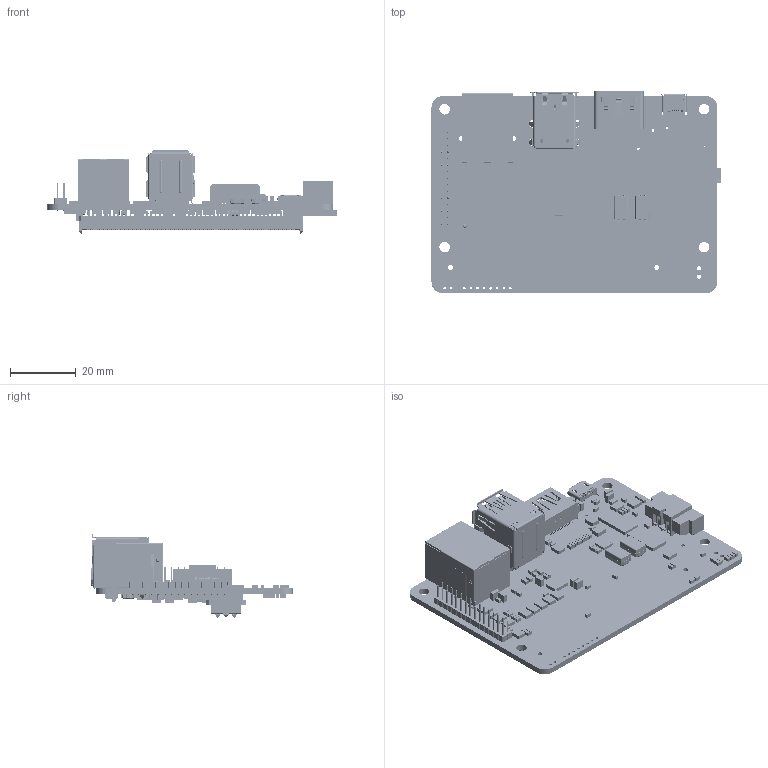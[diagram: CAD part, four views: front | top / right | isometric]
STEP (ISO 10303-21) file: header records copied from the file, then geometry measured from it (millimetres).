
FILE_DESCRIPTION((''),'2;1');
FILE_NAME('Y-C1_ASM','2025-11-27T09:23:21',('Lenovo'),(''),'CREO PARAMETRIC BY PTC INC, 2022073','CREO PARAMETRIC BY PTC INC, 2022073','');
FILE_SCHEMA(('AUTOMOTIVE_DESIGN { 1 0 10303 214 1 1 1 1 }'));
Products named in the file (382): TEST-V10-1-SOLID180; TEST-V10-1-SOLID280; TEST-V10-1-SOLID380; TEST-V10-1-SOLID480; TEST-V10-1-SOLID580; TEST-V10-1-SOLID680; TEST-V10-1-SOLID780; TEST-V10-1-SOLID880; TEST-V10-1-SOLID980; TEST-V10-1-SOLID1800; TEST-V10-1-SOLID2800; 20--1-SOLID80001; 20--2-SOLID80001; 20--3-SOLID80001; 20--4-SOLID80001; _SEAM-50-035-L-08-0003; TEST-V10-1-SOLID170; TEST-V10-1-SOLID270; TEST-V10-1-SOLID370; TEST-V10-1-SOLID470; TEST-V10-1-SOLID570; TEST-V10-1-SOLID670; TEST-V10-1-SOLID770; TEST-V10-1-SOLID870; TEST-V10-1-SOLID970; TEST-V10-1-SOLID1900; RJ45-002-1-SOLID90001; TEST-V10-1-SOLID10; TEST-V10-1-SOLID20; TEST-V10-1-SOLID30; TEST-V10-1-SOLID40; TEST-V10-1-SOLID50; TEST-V10-1-SOLID60; TEST-V10-1-SOLID70; TEST-V10-1-SOLID80; TEST-V10-1-SOLID90; TEST-V10-1-SOLID160; TEST-V10-1-SOLID260; TEST-V10-1-SOLID360; TEST-V10-1-SOLID460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
Assembly tree (381 placements, depth 3):
  Y-C1_ASM
    00_ASM
      TEST-V10-1-SOLID180
      TEST-V10-1-SOLID280
      TEST-V10-1-SOLID380
      TEST-V10-1-SOLID480
      TEST-V10-1-SOLID580
      TEST-V10-1-SOLID680
      TEST-V10-1-SOLID780
      TEST-V10-1-SOLID880
      TEST-V10-1-SOLID980
      TEST-V10-1-SOLID1800
      TEST-V10-1-SOLID1800
      TEST-V10-1-SOLID1800
      TEST-V10-1-SOLID1800
      TEST-V10-1-SOLID1800
      TEST-V10-1-SOLID1800
      TEST-V10-1-SOLID1800
      TEST-V10-1-SOLID1800
      TEST-V10-1-SOLID1800
      TEST-V10-1-SOLID1800
      TEST-V10-1-SOLID2800
      TEST-V10-1-SOLID2800
      TEST-V10-1-SOLID2800
      TEST-V10-1-SOLID2800
      TEST-V10-1-SOLID2800
      TEST-V10-1-SOLID2800
      TEST-V10-1-SOLID2800
      TEST-V10-1-SOLID2800
      TEST-V10-1-SOLID2800
      20--1-SOLID80001
      20--2-SOLID80001
      20--3-SOLID80001
      20--4-SOLID80001
      _SEAM-50-035-L-08-0003
      TEST-V10-1-SOLID170
      TEST-V10-1-SOLID270
      TEST-V10-1-SOLID370
      TEST-V10-1-SOLID470
      TEST-V10-1-SOLID570
      TEST-V10-1-SOLID670
      TEST-V10-1-SOLID770
      TEST-V10-1-SOLID870
      TEST-V10-1-SOLID970
      TEST-V10-1-SOLID1900
      TEST-V10-1-SOLID1900
      TEST-V10-1-SOLID1900
      TEST-V10-1-SOLID1900
      TEST-V10-1-SOLID1900
      TEST-V10-1-SOLID1900
      TEST-V10-1-SOLID1900
      TEST-V10-1-SOLID1900
      TEST-V10-1-SOLID1900
      TEST-V10-1-SOLID1900
      RJ45-002-1-SOLID90001
      TEST-V10-1-SOLID10
      TEST-V10-1-SOLID20
      TEST-V10-1-SOLID30
      TEST-V10-1-SOLID40
      TEST-V10-1-SOLID50
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Bounding box: 88 x 61.6 x 25.29 mm (x, y, z)
Volume: 21462.1 mm3; surface area: 47126.3 mm2
Topology: 379 solids, 388 shells, 21647 faces, 59540 edges, 39598 vertices
Faces by surface type: plane 17624, cylinder 3697, bspline 167, extrusion 71, torus 44, sphere 24, cone 20
Entity records: 1066214 total; most frequent: CARTESIAN_POINT 165474, ORIENTED_EDGE 118872, DIRECTION 105651, PRESENTATION_STYLE_ASSIGNMENT 81228, STYLED_ITEM 59975, CURVE_STYLE 59587, EDGE_CURVE 59516, VECTOR 48429
